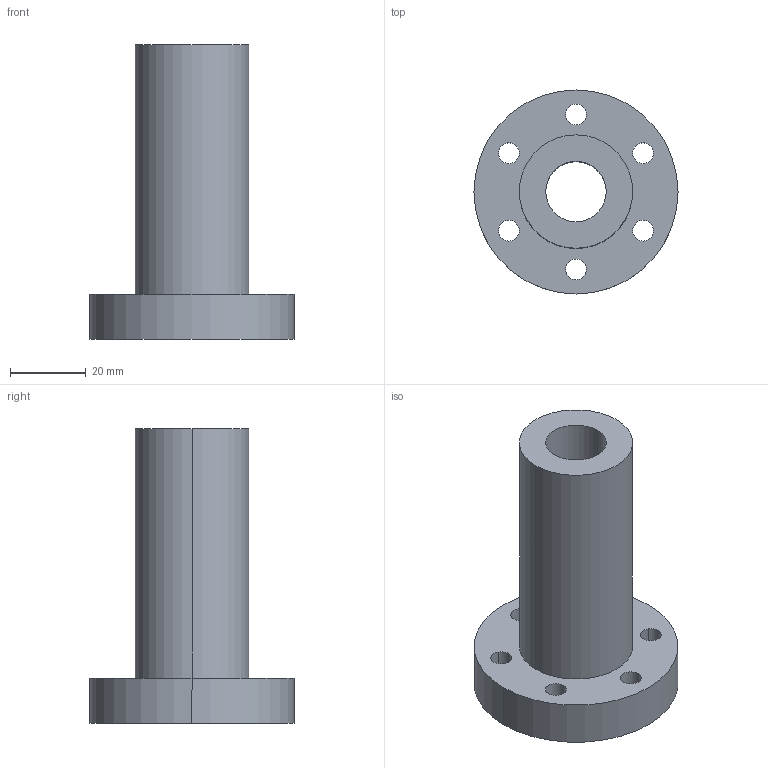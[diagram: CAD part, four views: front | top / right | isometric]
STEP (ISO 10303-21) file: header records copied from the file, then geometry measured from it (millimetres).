
FILE_DESCRIPTION((''),'2;1');
FILE_NAME('16-5T3','2008-04-03T',('cmliu'),(''),'PRO/ENGINEER BY PARAMETRIC TECHNOLOGY CORPORATION, 2004110','PRO/ENGINEER BY PARAMETRIC TECHNOLOGY CORPORATION, 2004110','');
FILE_SCHEMA(('CONFIG_CONTROL_DESIGN'));
Length unit declared in the file: millimetre
Products named in the file (1): 16-5T3
Bounding box: 54 x 54 x 78 mm (x, y, z)
Volume: 55186.8 mm3; surface area: 17728.8 mm2
Topology: 1 solids, 1 shells, 39 faces, 98 edges, 68 vertices
Faces by surface type: cylinder 30, plane 9
Entity records: 1290 total; most frequent: DIRECTION 244, CARTESIAN_POINT 205, ORIENTED_EDGE 196, AXIS2_PLACEMENT_3D 107, EDGE_CURVE 98, VERTEX_POINT 68, CIRCLE 68, EDGE_LOOP 60
